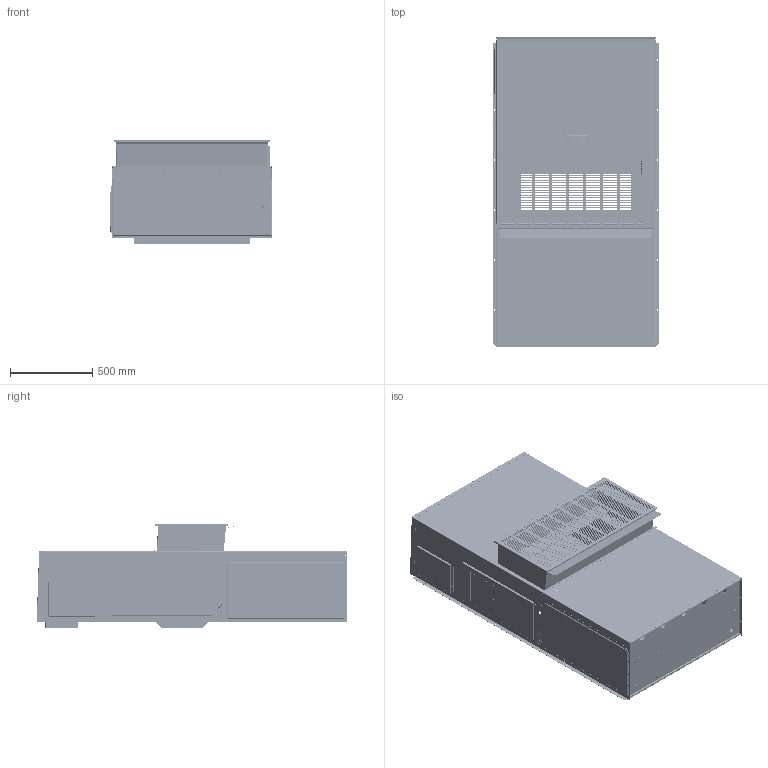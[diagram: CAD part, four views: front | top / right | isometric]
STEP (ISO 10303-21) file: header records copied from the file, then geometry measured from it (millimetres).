
FILE_DESCRIPTION (( 'STEP AP203' ), '1' );
FILE_NAME ('STEP_900_7.STEP', '2016-06-22T14:51:01', ( '' ), ( '' ), 'SwSTEP 2.0', 'SolidWorks 2016', '' );
FILE_SCHEMA (( 'CONFIG_CONTROL_DESIGN' ));
Products named in the file (1): STEP_900_7
Bounding box: 1015.56 x 1893.83 x 635.57 mm (x, y, z)
Surface area: 17799142.1 mm2 (no closed solid volume)
Topology: 0 solids, 86 shells, 12007 faces, 31809 edges, 20091 vertices
Faces by surface type: plane 5335, cylinder 3270, bspline 3121, cone 250, torus 18, sphere 13
Entity records: 497582 total; most frequent: CARTESIAN_POINT 223291, ORIENTED_EDGE 63518, DIRECTION 46972, EDGE_CURVE 31760, VERTEX_POINT 20082, VECTOR 17342, LINE 17342, AXIS2_PLACEMENT_3D 14815
